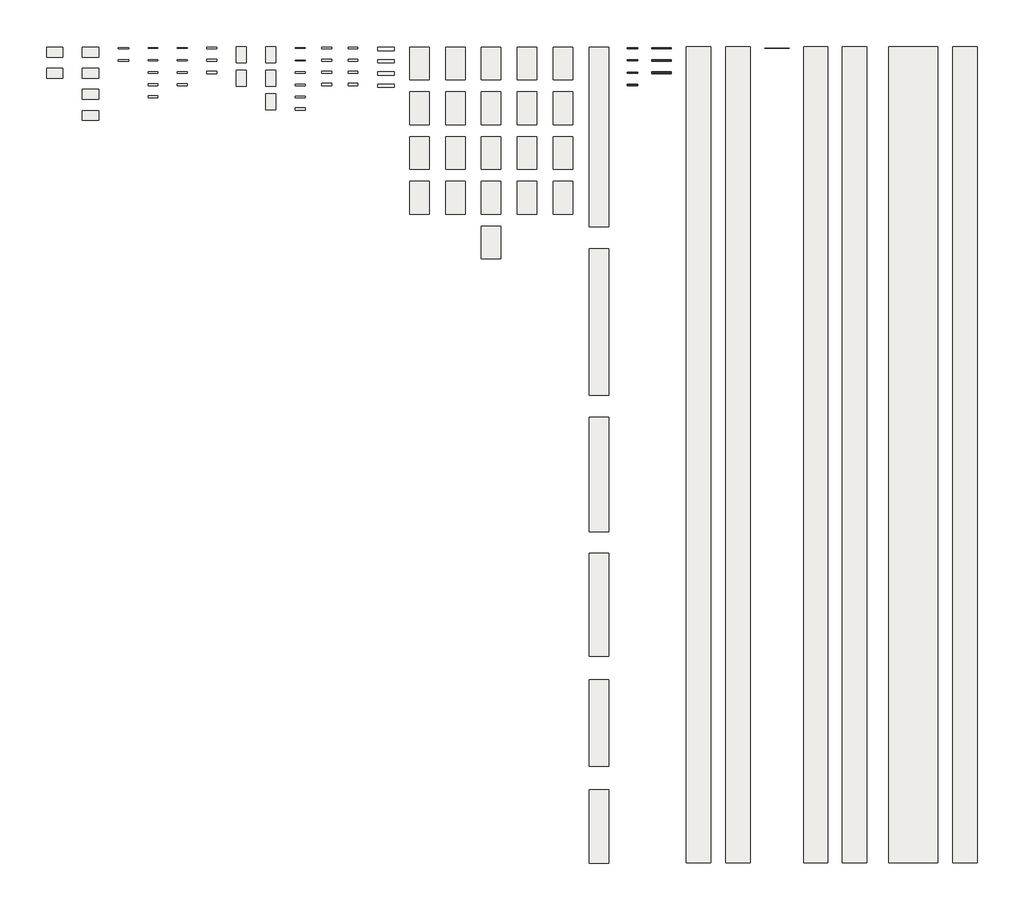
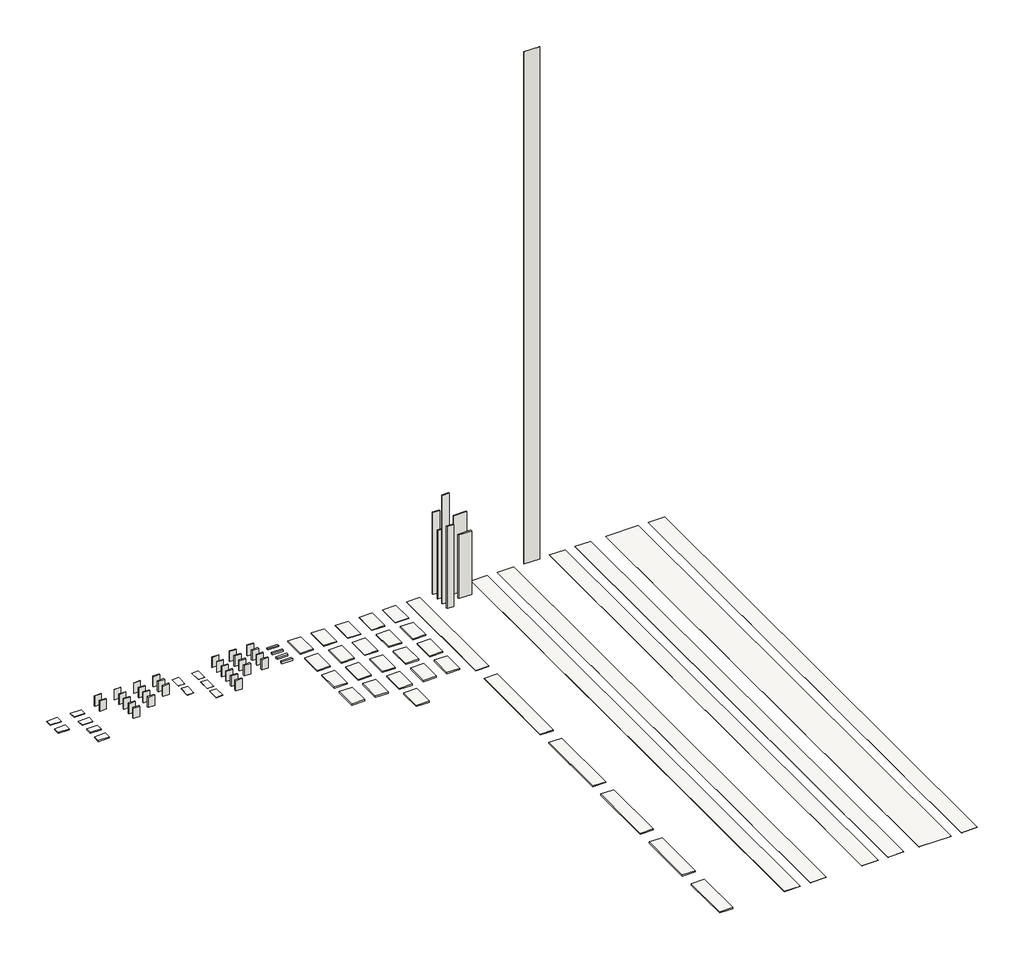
# One storey: 36 walls, 33 roofs, 10 coverings, 5 slabs.
"""IFC4 building model written with IfcOpenShell, lengths in millimetres."""

from ifc_helpers import new_model, si_unit, frame, origin, origin_with_axes, place, context, project, spatial, polyline, outline, extrude, element, save

model = new_model("IFC4")

# Units and contexts
model_context = context("Model", 3, world=origin())
ifc_project = project(units=[si_unit("LENGTHUNIT", "METRE", prefix="MILLI")], contexts=[model_context])

# Site, building, storey
site = spatial("IfcSite", under=ifc_project)
building = spatial("IfcBuilding", under=site)
storey = spatial("IfcBuildingStorey", under=building, Name="Референтни ниво", Elevation=0.0)

# Coverings
placement = place(None, origin())
element("IfcCovering", 1, ObjectType="Knauf Insulation - NaturBoard FIT - 50 mm - 50 x 1000 x 600 mm", at=placement, inside=storey, context=model_context, shape_type="SweptSolid", body=[
    extrude(outline(polyline([(-257652.0902031, 183264.3977243), (-257652.0902031, 182664.3977243), (-258652.0902031, 182664.3977243), (-258652.0902031, 183264.3977243), (-257652.0902031, 183264.3977243)])), origin_with_axes(), (0.0, 0.0, 1.0), 50.0),
])
element("IfcCovering", 2, ObjectType="Knauf Insulation - NaturBoard FIT - 100 mm - 100 x 1000 x 600 mm", at=placement, inside=storey, context=model_context, shape_type="SweptSolid", body=[
    extrude(outline(polyline([(-257652.0902031, 181984.3977243), (-257652.0902031, 181384.3977243), (-258652.0902031, 181384.3977243), (-258652.0902031, 181984.3977243), (-257652.0902031, 181984.3977243)])), origin_with_axes(), (0.0, 0.0, 1.0), 100.0),
])
element("IfcCovering", 3, ObjectType="Knauf Insulation - NaturBoard FIT PLUS - 50 mm - 50 x 1000 x 600 mm", at=placement, inside=storey, context=model_context, shape_type="SweptSolid", body=[
    extrude(outline(polyline([(-255452.0902031, 183264.3977243), (-255452.0902031, 182664.3977243), (-256452.0902031, 182664.3977243), (-256452.0902031, 183264.3977243), (-255452.0902031, 183264.3977243)])), origin_with_axes(), (0.0, 0.0, 1.0), 50.0),
])
element("IfcCovering", 4, ObjectType="Knauf Insulation - NaturBoard FIT PLUS - 60 mm - 60 x 1000 x 600 mm", at=placement, inside=storey, context=model_context, shape_type="SweptSolid", body=[
    extrude(outline(polyline([(-255452.0902031, 181984.3977243), (-255452.0902031, 181384.3977243), (-256452.0902031, 181384.3977243), (-256452.0902031, 181984.3977243), (-255452.0902031, 181984.3977243)])), origin_with_axes(), (0.0, 0.0, 1.0), 60.0),
])
element("IfcCovering", 5, ObjectType="Knauf Insulation - NaturBoard FIT PLUS - 100 mm - 100 x 1000 x 600 mm", at=placement, inside=storey, context=model_context, shape_type="SweptSolid", body=[
    extrude(outline(polyline([(-255452.0902031, 180684.3977243), (-255452.0902031, 180084.3977243), (-256452.0902031, 180084.3977243), (-256452.0902031, 180684.3977243), (-255452.0902031, 180684.3977243)])), origin_with_axes(), (0.0, 0.0, 1.0), 100.0),
])
element("IfcCovering", 6, ObjectType="Knauf Insulation - NaturBoard FIT PLUS - 120 mm - 120 x 1000 x 600 mm", at=placement, inside=storey, context=model_context, shape_type="SweptSolid", body=[
    extrude(outline(polyline([(-255452.0902031, 179384.3977243), (-255452.0902031, 178784.3977243), (-256452.0902031, 178784.3977243), (-256452.0902031, 179384.3977243), (-255452.0902031, 179384.3977243)])), origin_with_axes(), (0.0, 0.0, 1.0), 120.0),
])
element("IfcCovering", 7, ObjectType="Knauf Insulation - CLT C1 Thermal - 100 mm - 100 x 1000 x 200 mm", at=placement, inside=storey, context=model_context, shape_type="SweptSolid", body=[
    extrude(outline(polyline([(-237352.0902031, 183264.3977243), (-237352.0902031, 183064.3977243), (-238352.0902031, 183064.3977243), (-238352.0902031, 183264.3977243), (-237352.0902031, 183264.3977243)])), origin_with_axes(), (0.0, 0.0, 1.0), 100.0),
])
element("IfcCovering", 8, ObjectType="Knauf Insulation - CLT C1 Thermal - 120 mm - 120 x 1000 x 200 mm", at=placement, inside=storey, context=model_context, shape_type="SweptSolid", body=[
    extrude(outline(polyline([(-237352.0902031, 182511.8977243), (-237352.0902031, 182311.8977243), (-238352.0902031, 182311.8977243), (-238352.0902031, 182511.8977243), (-237352.0902031, 182511.8977243)])), origin_with_axes(), (0.0, 0.0, 1.0), 120.0),
])
element("IfcCovering", 9, ObjectType="Knauf Insulation - CLT C1 Thermal - 150 mm - 150 x 1000 x 200 mm", at=placement, inside=storey, context=model_context, shape_type="SweptSolid", body=[
    extrude(outline(polyline([(-237352.0902031, 181764.3977243), (-237352.0902031, 181564.3977243), (-238352.0902031, 181564.3977243), (-238352.0902031, 181764.3977243), (-237352.0902031, 181764.3977243)])), origin_with_axes(), (0.0, 0.0, 1.0), 150.0),
])
element("IfcCovering", 10, ObjectType="Knauf Insulation - CLT C1 Thermal - 200 mm - 200 x 1000 x 200 mm", at=placement, inside=storey, context=model_context, shape_type="SweptSolid", body=[
    extrude(outline(polyline([(-237352.0902031, 181016.8977243), (-237352.0902031, 180816.8977243), (-238352.0902031, 180816.8977243), (-238352.0902031, 181016.8977243), (-237352.0902031, 181016.8977243)])), origin_with_axes(), (0.0, 0.0, 1.0), 200.0),
])

# Roofs
element("IfcRoof", 11, ObjectType="Knauf Insulation - SmartRoof Base - 80 mm - 80 x 2000 x 1200 mm", at=placement, inside=storey, context=model_context, shape_type="SweptSolid", body=[
    extrude(outline(polyline([(-236400.0, 183272.205474), (-235200.0, 183272.205474), (-235200.0, 181272.205474), (-236400.0, 181272.205474), (-236400.0, 183272.205474)])), origin_with_axes(), (0.0, 0.0, 1.0), 80.0),
])
element("IfcRoof", 12, ObjectType="Knauf Insulation - SmartRoof Base - 100 mm - 100 x 2000 x 1200 mm", at=placement, inside=storey, context=model_context, shape_type="SweptSolid", body=[
    extrude(outline(polyline([(-236400.0, 180532.205474), (-235200.0, 180532.205474), (-235200.0, 178532.205474), (-236400.0, 178532.205474), (-236400.0, 180532.205474)])), origin_with_axes(), (0.0, 0.0, 1.0), 100.0),
])
element("IfcRoof", 13, ObjectType="Knauf Insulation - SmartRoof Base - 120 mm - 120 x 2000 x 1200 mm", at=placement, inside=storey, context=model_context, shape_type="SweptSolid", body=[
    extrude(outline(polyline([(-236400.0, 177792.205474), (-235200.0, 177792.205474), (-235200.0, 175792.205474), (-236400.0, 175792.205474), (-236400.0, 177792.205474)])), origin_with_axes(), (0.0, 0.0, 1.0), 120.0),
])
element("IfcRoof", 14, ObjectType="Knauf Insulation - SmartRoof Base - 140 mm - 140 x 2000 x 1200 mm", at=placement, inside=storey, context=model_context, shape_type="SweptSolid", body=[
    extrude(outline(polyline([(-236400.0, 175052.205474), (-235200.0, 175052.205474), (-235200.0, 173052.205474), (-236400.0, 173052.205474), (-236400.0, 175052.205474)])), origin_with_axes(), (0.0, 0.0, 1.0), 140.0),
])
element("IfcRoof", 15, ObjectType="Knauf Insulation - SmartRoof Base 2 - 80 mm - 80 x 2000 x 1200 mm", at=placement, inside=storey, context=model_context, shape_type="SweptSolid", body=[
    extrude(outline(polyline([(-234200.0, 183272.205474), (-233000.0, 183272.205474), (-233000.0, 181272.205474), (-234200.0, 181272.205474), (-234200.0, 183272.205474)])), origin_with_axes(), (0.0, 0.0, 1.0), 80.0),
])
element("IfcRoof", 16, ObjectType="Knauf Insulation - SmartRoof Base 2 - 100 mm - 100 x 2000 x 1200 mm", at=placement, inside=storey, context=model_context, shape_type="SweptSolid", body=[
    extrude(outline(polyline([(-234200.0, 180532.205474), (-233000.0, 180532.205474), (-233000.0, 178532.205474), (-234200.0, 178532.205474), (-234200.0, 180532.205474)])), origin_with_axes(), (0.0, 0.0, 1.0), 100.0),
])
element("IfcRoof", 17, ObjectType="Knauf Insulation - SmartRoof Base 2 - 120 mm - 120 x 2000 x 1200 mm", at=placement, inside=storey, context=model_context, shape_type="SweptSolid", body=[
    extrude(outline(polyline([(-234200.0, 177792.205474), (-233000.0, 177792.205474), (-233000.0, 175792.205474), (-234200.0, 175792.205474), (-234200.0, 177792.205474)])), origin_with_axes(), (0.0, 0.0, 1.0), 120.0),
])
element("IfcRoof", 18, ObjectType="Knauf Insulation - SmartRoof Base 2 - 140 mm - 140 x 2000 x 1200 mm", at=placement, inside=storey, context=model_context, shape_type="SweptSolid", body=[
    extrude(outline(polyline([(-234200.0, 175052.205474), (-233000.0, 175052.205474), (-233000.0, 173052.205474), (-234200.0, 173052.205474), (-234200.0, 175052.205474)])), origin_with_axes(), (0.0, 0.0, 1.0), 140.0),
])
element("IfcRoof", 19, ObjectType="Knauf Insulation - SmartRoof Thermal - 50 mm - 50 x 2000 x 1200 mm", at=placement, inside=storey, context=model_context, shape_type="SweptSolid", body=[
    extrude(outline(polyline([(-232000.0, 183272.205474), (-230800.0, 183272.205474), (-230800.0, 181272.205474), (-232000.0, 181272.205474), (-232000.0, 183272.205474)])), origin_with_axes(), (0.0, 0.0, 1.0), 50.0),
])
element("IfcRoof", 20, ObjectType="Knauf Insulation - SmartRoof Thermal - 80 mm - 80 x 2000 x 1200 mm", at=placement, inside=storey, context=model_context, shape_type="SweptSolid", body=[
    extrude(outline(polyline([(-232000.0, 180532.205474), (-230800.0, 180532.205474), (-230800.0, 178532.205474), (-232000.0, 178532.205474), (-232000.0, 180532.205474)])), origin_with_axes(), (0.0, 0.0, 1.0), 80.0),
])
element("IfcRoof", 21, ObjectType="Knauf Insulation - SmartRoof Thermal - 100 mm - 100 x 2000 x 1200 mm", at=placement, inside=storey, context=model_context, shape_type="SweptSolid", body=[
    extrude(outline(polyline([(-232000.0, 177792.205474), (-230800.0, 177792.205474), (-230800.0, 175792.205474), (-232000.0, 175792.205474), (-232000.0, 177792.205474)])), origin_with_axes(), (0.0, 0.0, 1.0), 100.0),
])
element("IfcRoof", 22, ObjectType="Knauf Insulation - SmartRoof Thermal - 120 mm - 120 x 2000 x 1200 mm", at=placement, inside=storey, context=model_context, shape_type="SweptSolid", body=[
    extrude(outline(polyline([(-232000.0, 175052.205474), (-230800.0, 175052.205474), (-230800.0, 173052.205474), (-232000.0, 173052.205474), (-232000.0, 175052.205474)])), origin_with_axes(), (0.0, 0.0, 1.0), 120.0),
])
element("IfcRoof", 23, ObjectType="Knauf Insulation - SmartRoof Thermal - 140 mm - 140 x 2000 x 1200 mm", at=placement, inside=storey, context=model_context, shape_type="SweptSolid", body=[
    extrude(outline(polyline([(-232000.0, 172312.205474), (-230800.0, 172312.205474), (-230800.0, 170312.205474), (-232000.0, 170312.205474), (-232000.0, 172312.205474)])), origin_with_axes(), (0.0, 0.0, 1.0), 140.0),
])
element("IfcRoof", 24, ObjectType="Knauf Insulation - SmartRoof Thermal 2 - 80 mm - 80 x 2000 x 1200 mm", at=placement, inside=storey, context=model_context, shape_type="SweptSolid", body=[
    extrude(outline(polyline([(-229800.0, 183272.205474), (-228600.0, 183272.205474), (-228600.0, 181272.205474), (-229800.0, 181272.205474), (-229800.0, 183272.205474)])), origin_with_axes(), (0.0, 0.0, 1.0), 80.0),
])
element("IfcRoof", 25, ObjectType="Knauf Insulation - SmartRoof Thermal 2 - 100 mm - 100 x 2000 x 1200 mm", at=placement, inside=storey, context=model_context, shape_type="SweptSolid", body=[
    extrude(outline(polyline([(-229800.0, 180532.205474), (-228600.0, 180532.205474), (-228600.0, 178532.205474), (-229800.0, 178532.205474), (-229800.0, 180532.205474)])), origin_with_axes(), (0.0, 0.0, 1.0), 100.0),
])
element("IfcRoof", 26, ObjectType="Knauf Insulation - SmartRoof Thermal 2 - 120 mm - 120 x 2000 x 1200 mm", at=placement, inside=storey, context=model_context, shape_type="SweptSolid", body=[
    extrude(outline(polyline([(-229800.0, 177792.205474), (-228600.0, 177792.205474), (-228600.0, 175792.205474), (-229800.0, 175792.205474), (-229800.0, 177792.205474)])), origin_with_axes(), (0.0, 0.0, 1.0), 120.0),
])
element("IfcRoof", 27, ObjectType="Knauf Insulation - SmartRoof Thermal 2 - 140 mm - 140 x 2000 x 1200 mm", at=placement, inside=storey, context=model_context, shape_type="SweptSolid", body=[
    extrude(outline(polyline([(-229800.0, 175052.205474), (-228600.0, 175052.205474), (-228600.0, 173052.205474), (-229800.0, 173052.205474), (-229800.0, 175052.205474)])), origin_with_axes(), (0.0, 0.0, 1.0), 140.0),
])
element("IfcRoof", 28, ObjectType="Knauf Insulation - SmartRoof Top - 50 mm - 50 x 2000 x 1200 mm", at=placement, inside=storey, context=model_context, shape_type="SweptSolid", body=[
    extrude(outline(polyline([(-227600.0, 183272.205474), (-226400.0, 183272.205474), (-226400.0, 181272.205474), (-227600.0, 181272.205474), (-227600.0, 183272.205474)])), origin_with_axes(), (0.0, 0.0, 1.0), 50.0),
])
element("IfcRoof", 29, ObjectType="Knauf Insulation - SmartRoof Top - 80 mm - 80 x 2000 x 1200 mm", at=placement, inside=storey, context=model_context, shape_type="SweptSolid", body=[
    extrude(outline(polyline([(-227600.0, 180532.205474), (-226400.0, 180532.205474), (-226400.0, 178532.205474), (-227600.0, 178532.205474), (-227600.0, 180532.205474)])), origin_with_axes(), (0.0, 0.0, 1.0), 80.0),
])
element("IfcRoof", 30, ObjectType="Knauf Insulation - SmartRoof Top - 100 mm - 100 x 2000 x 1200 mm", at=placement, inside=storey, context=model_context, shape_type="SweptSolid", body=[
    extrude(outline(polyline([(-227600.0, 177792.205474), (-226400.0, 177792.205474), (-226400.0, 175792.205474), (-227600.0, 175792.205474), (-227600.0, 177792.205474)])), origin_with_axes(), (0.0, 0.0, 1.0), 100.0),
])
element("IfcRoof", 31, ObjectType="Knauf Insulation - SmartRoof Top - 120 mm - 120 x 2000 x 1200 mm", at=placement, inside=storey, context=model_context, shape_type="SweptSolid", body=[
    extrude(outline(polyline([(-227600.0, 175052.205474), (-226400.0, 175052.205474), (-226400.0, 173052.205474), (-227600.0, 173052.205474), (-227600.0, 175052.205474)])), origin_with_axes(), (0.0, 0.0, 1.0), 120.0),
])
element("IfcRoof", 32, ObjectType="Knauf Insulation - Unifit 035 - 50 mm - 50 x 11000 x 1200 mm", at=placement, inside=storey, context=model_context, shape_type="SweptSolid", body=[
    extrude(outline(polyline([(-225400.0, 183272.205474), (-224200.0, 183272.205474), (-224200.0, 172272.205474), (-225400.0, 172272.205474), (-225400.0, 183272.205474)])), origin_with_axes(), (0.0, 0.0, 1.0), 50.0),
])
element("IfcRoof", 33, ObjectType="Knauf Insulation - Unifit 035 - 60 mm - 60 x 9000 x 1200 mm", at=placement, inside=storey, context=model_context, shape_type="SweptSolid", body=[
    extrude(outline(polyline([(-225400.0, 170932.205474), (-224200.0, 170932.205474), (-224200.0, 161932.205474), (-225400.0, 161932.205474), (-225400.0, 170932.205474)])), origin_with_axes(), (0.0, 0.0, 1.0), 60.0),
])
element("IfcRoof", 34, ObjectType="Knauf Insulation - Unifit 035 - 80 mm - 80 x 7000 x 1200 mm", at=placement, inside=storey, context=model_context, shape_type="SweptSolid", body=[
    extrude(outline(polyline([(-225400.0, 160592.205474), (-224200.0, 160592.205474), (-224200.0, 153592.205474), (-225400.0, 153592.205474), (-225400.0, 160592.205474)])), origin_with_axes(), (0.0, 0.0, 1.0), 80.0),
])
element("IfcRoof", 35, ObjectType="Knauf Insulation - Unifit 035 - 100 mm - 100 x 6300 x 1200 mm", at=placement, inside=storey, context=model_context, shape_type="SweptSolid", body=[
    extrude(outline(polyline([(-225400.0, 152252.205474), (-224200.0, 152252.205474), (-224200.0, 145952.205474), (-225400.0, 145952.205474), (-225400.0, 152252.205474)])), origin_with_axes(), (0.0, 0.0, 1.0), 100.0),
])
element("IfcRoof", 36, ObjectType="Knauf Insulation - Unifit 035 - 120 mm - 120 x 5300 x 1200 mm", at=placement, inside=storey, context=model_context, shape_type="SweptSolid", body=[
    extrude(outline(polyline([(-225400.0, 144512.205474), (-224200.0, 144512.205474), (-224200.0, 139212.205474), (-225400.0, 139212.205474), (-225400.0, 144512.205474)])), origin_with_axes(), (0.0, 0.0, 1.0), 120.0),
])
element("IfcRoof", 37, ObjectType="Knauf Insulation - Unifit 035 - 140 mm - 140 x 4500 x 1200 mm", at=placement, inside=storey, context=model_context, shape_type="SweptSolid", body=[
    extrude(outline(polyline([(-225400.0, 137772.205474), (-224200.0, 137772.205474), (-224200.0, 133272.205474), (-225400.0, 133272.205474), (-225400.0, 137772.205474)])), origin_with_axes(), (0.0, 0.0, 1.0), 140.0),
])
element("IfcRoof", 38, ObjectType="Knauf Insulation - Homeseal LDS 0.02 - 1500 x 50000 mm", at=placement, inside=storey, context=model_context, shape_type="SweptSolid", body=[
    extrude(outline(polyline([(-219445.8819036, 183288.5903824), (-217945.8819036, 183288.5903824), (-217945.8819036, 133288.5903824), (-219445.8819036, 133288.5903824), (-219445.8819036, 183288.5903824)])), origin_with_axes(), (0.0, 0.0, 1.0), 1.6),
])
element("IfcRoof", 39, ObjectType="Knauf Insulation - Homeseal LDS 0.04 FixPlus - 1500 x 50000 mm", at=placement, inside=storey, context=model_context, shape_type="SweptSolid", body=[
    extrude(outline(polyline([(-217032.7802422, 183288.5903824), (-215532.7802422, 183288.5903824), (-215532.7802422, 133288.5903824), (-217032.7802422, 133288.5903824), (-217032.7802422, 183288.5903824)])), origin_with_axes(), (0.0, 0.0, 1.0), 1.6),
])
element("IfcRoof", 40, ObjectType="Knauf Insulation - Homeseal LDS 5 - 1500 x 50000 mm", at=placement, inside=storey, context=model_context, shape_type="SweptSolid", body=[
    extrude(outline(polyline([(-212258.9835651, 183288.5903824), (-210758.9835651, 183288.5903824), (-210758.9835651, 133288.5903824), (-212258.9835651, 133288.5903824), (-212258.9835651, 183288.5903824)])), origin_with_axes(), (0.0, 0.0, 1.0), 1.6),
])
element("IfcRoof", 41, ObjectType="Knauf Insulation - Homeseal LDS 35 - 1500 x 50000 mm", at=placement, inside=storey, context=model_context, shape_type="SweptSolid", body=[
    extrude(outline(polyline([(-209898.9835651, 183288.5903824), (-208398.9835651, 183288.5903824), (-208398.9835651, 133288.5903824), (-209898.9835651, 133288.5903824), (-209898.9835651, 183288.5903824)])), origin_with_axes(), (0.0, 0.0, 1.0), 1.6),
])
element("IfcRoof", 42, ObjectType="Knauf Insulation - Homeseal LDS 35 FixPlus - 3000 x 50000 mm", at=placement, inside=storey, context=model_context, shape_type="SweptSolid", body=[
    extrude(outline(polyline([(-207025.2137836, 183298.442744), (-204025.2137836, 183298.442744), (-204025.2137836, 133298.442744), (-207025.2137836, 133298.442744), (-207025.2137836, 183298.442744)])), origin_with_axes(), (0.0, 0.0, 1.0), 1.6),
])
element("IfcRoof", 43, ObjectType="Knauf Insulation - Homeseal LDS 200 AluPlus - 1500 x 50000 mm", at=placement, inside=storey, context=model_context, shape_type="SweptSolid", body=[
    extrude(outline(polyline([(-203098.9835651, 183288.5903824), (-201598.9835651, 183288.5903824), (-201598.9835651, 133288.5903824), (-203098.9835651, 133288.5903824), (-203098.9835651, 183288.5903824)])), origin_with_axes(), (0.0, 0.0, 1.0), 1.6),
])

# Slabs
element("IfcSlab", 44, ObjectType="Knauf Insulation - NaturBoard POD STANDARD - 20 mm - 20 x 1000 x 600 mm", at=placement, inside=storey, context=model_context, shape_type="SweptSolid", body=[
    extrude(outline(polyline([(-246426.4890323, 183315.8878718), (-246426.4890323, 182315.8878718), (-247026.4890323, 182315.8878718), (-247026.4890323, 183315.8878718), (-246426.4890323, 183315.8878718)])), frame((0.0, 0.0, -20.0), z_axis=(0.0, 0.0, 1.0), x_axis=(1.0, 0.0, 0.0)), (0.0, 0.0, 1.0), 20.0),
])
element("IfcSlab", 45, ObjectType="Knauf Insulation - NaturBoard POD STANDARD - 30 mm - 30 x 1000 x 600 mm", at=placement, inside=storey, context=model_context, shape_type="SweptSolid", body=[
    extrude(outline(polyline([(-246426.4890323, 181875.8878718), (-246426.4890323, 180875.8878718), (-247026.4890323, 180875.8878718), (-247026.4890323, 181875.8878718), (-246426.4890323, 181875.8878718)])), frame((0.0, 0.0, -30.0), z_axis=(0.0, 0.0, 1.0), x_axis=(1.0, 0.0, 0.0)), (0.0, 0.0, 1.0), 30.0),
])
element("IfcSlab", 46, ObjectType="Knauf Insulation - NaturBoard POD EXTRA - 20 mm - 20 x 1000 x 600 mm", at=placement, inside=storey, context=model_context, shape_type="SweptSolid", body=[
    extrude(outline(polyline([(-244606.4890323, 183315.8878718), (-244606.4890323, 182315.8878718), (-245206.4890323, 182315.8878718), (-245206.4890323, 183315.8878718), (-244606.4890323, 183315.8878718)])), frame((0.0, 0.0, -20.0), z_axis=(0.0, 0.0, 1.0), x_axis=(1.0, 0.0, 0.0)), (0.0, 0.0, 1.0), 20.0),
])
element("IfcSlab", 47, ObjectType="Knauf Insulation - NaturBoard POD EXTRA - 30 mm - 30 x 1000 x 600 mm", at=placement, inside=storey, context=model_context, shape_type="SweptSolid", body=[
    extrude(outline(polyline([(-244606.4890323, 181875.8878718), (-244606.4890323, 180875.8878718), (-245206.4890323, 180875.8878718), (-245206.4890323, 181875.8878718), (-244606.4890323, 181875.8878718)])), frame((0.0, 0.0, -30.0), z_axis=(0.0, 0.0, 1.0), x_axis=(1.0, 0.0, 0.0)), (0.0, 0.0, 1.0), 30.0),
])
element("IfcSlab", 48, ObjectType="Knauf Insulation - NaturBoard POD EXTRA - 50 mm - 50 x 1000 x 600 mm", at=placement, inside=storey, context=model_context, shape_type="SweptSolid", body=[
    extrude(outline(polyline([(-244606.4890323, 180435.8878718), (-244606.4890323, 179435.8878718), (-245206.4890323, 179435.8878718), (-245206.4890323, 180435.8878718), (-244606.4890323, 180435.8878718)])), frame((0.0, 0.0, -50.0), z_axis=(0.0, 0.0, 1.0), x_axis=(1.0, 0.0, 0.0)), (0.0, 0.0, 1.0), 50.0),
])

# Walls
element("IfcWall", 49, ObjectType="Knauf Insulation - NaturBoard FIT-G PLUS - 50 mm - 50 x 1000 x 625 mm", at=placement, inside=storey, context=model_context, shape_type="SweptSolid", body=[
    extrude(outline(polyline([(-253623.2417825, 183192.205474), (-254248.2417825, 183192.205474), (-254248.2417825, 183242.205474), (-253623.2417825, 183242.205474), (-253623.2417825, 183192.205474)])), origin_with_axes(), (0.0, 0.0, 1.0), 1000.0),
])
element("IfcWall", 50, ObjectType="Knauf Insulation - NaturBoard FIT-G PLUS - 75 mm - 75 x 1000 x 625 mm", at=placement, inside=storey, context=model_context, shape_type="SweptSolid", body=[
    extrude(outline(polyline([(-253623.2417825, 182419.705474), (-254248.2417825, 182419.705474), (-254248.2417825, 182494.705474), (-253623.2417825, 182494.705474), (-253623.2417825, 182419.705474)])), origin_with_axes(), (0.0, 0.0, 1.0), 1000.0),
])
element("IfcWall", 51, ObjectType="Knauf Insulation - NaturBoard VENTI - 30 mm - 30 x 1000 x 600 mm", at=placement, inside=storey, context=model_context, shape_type="SweptSolid", body=[
    extrude(outline(polyline([(-251825.7417825, 183202.205474), (-252425.7417825, 183202.205474), (-252425.7417825, 183232.205474), (-251825.7417825, 183232.205474), (-251825.7417825, 183202.205474)])), origin_with_axes(), (0.0, 0.0, 1.0), 1000.0),
])
element("IfcWall", 52, ObjectType="Knauf Insulation - NaturBoard VENTI - 50 mm - 50 x 1000 x 600 mm", at=placement, inside=storey, context=model_context, shape_type="SweptSolid", body=[
    extrude(outline(polyline([(-251825.7417825, 182444.705474), (-252425.7417825, 182444.705474), (-252425.7417825, 182494.705474), (-251825.7417825, 182494.705474), (-251825.7417825, 182444.705474)])), origin_with_axes(), (0.0, 0.0, 1.0), 1000.0),
])
element("IfcWall", 53, ObjectType="Knauf Insulation - NaturBoard VENTI - 80 mm - 80 x 1000 x 600 mm", at=placement, inside=storey, context=model_context, shape_type="SweptSolid", body=[
    extrude(outline(polyline([(-251825.7417825, 181682.205474), (-252425.7417825, 181682.205474), (-252425.7417825, 181762.205474), (-251825.7417825, 181762.205474), (-251825.7417825, 181682.205474)])), origin_with_axes(), (0.0, 0.0, 1.0), 1000.0),
])
element("IfcWall", 54, ObjectType="Knauf Insulation - NaturBoard VENTI - 100 mm - 100 x 1000 x 600 mm", at=placement, inside=storey, context=model_context, shape_type="SweptSolid", body=[
    extrude(outline(polyline([(-251825.7417825, 180924.705474), (-252425.7417825, 180924.705474), (-252425.7417825, 181024.705474), (-251825.7417825, 181024.705474), (-251825.7417825, 180924.705474)])), origin_with_axes(), (0.0, 0.0, 1.0), 1000.0),
])
element("IfcWall", 55, ObjectType="Knauf Insulation - NaturBoard VENTI - 120 mm - 120 x 1000 x 600 mm", at=placement, inside=storey, context=model_context, shape_type="SweptSolid", body=[
    extrude(outline(polyline([(-251825.7417825, 180167.205474), (-252425.7417825, 180167.205474), (-252425.7417825, 180287.205474), (-251825.7417825, 180287.205474), (-251825.7417825, 180167.205474)])), origin_with_axes(), (0.0, 0.0, 1.0), 1000.0),
])
element("IfcWall", 56, ObjectType="Knauf Insulation - NaturBoard VENTACUSTO - 50 mm - 50 x 1000 x 600 mm", at=placement, inside=storey, context=model_context, shape_type="SweptSolid", body=[
    extrude(outline(polyline([(-250028.2417825, 183204.705474), (-250628.2417825, 183204.705474), (-250628.2417825, 183254.705474), (-250028.2417825, 183254.705474), (-250028.2417825, 183204.705474)])), origin_with_axes(), (0.0, 0.0, 1.0), 1000.0),
])
element("IfcWall", 57, ObjectType="Knauf Insulation - NaturBoard VENTACUSTO - 80 mm - 80 x 1000 x 600 mm", at=placement, inside=storey, context=model_context, shape_type="SweptSolid", body=[
    extrude(outline(polyline([(-250028.2417825, 182437.205474), (-250628.2417825, 182437.205474), (-250628.2417825, 182517.205474), (-250028.2417825, 182517.205474), (-250028.2417825, 182437.205474)])), origin_with_axes(), (0.0, 0.0, 1.0), 1000.0),
])
element("IfcWall", 58, ObjectType="Knauf Insulation - NaturBoard VENTACUSTO - 100 mm - 100 x 1000 x 600 mm", at=placement, inside=storey, context=model_context, shape_type="SweptSolid", body=[
    extrude(outline(polyline([(-250028.2417825, 181679.705474), (-250628.2417825, 181679.705474), (-250628.2417825, 181779.705474), (-250028.2417825, 181779.705474), (-250028.2417825, 181679.705474)])), origin_with_axes(), (0.0, 0.0, 1.0), 1000.0),
])
element("IfcWall", 59, ObjectType="Knauf Insulation - NaturBoard VENTACUSTO - 120 mm - 120 x 1000 x 600 mm", at=placement, inside=storey, context=model_context, shape_type="SweptSolid", body=[
    extrude(outline(polyline([(-250028.2417825, 180922.205474), (-250628.2417825, 180922.205474), (-250628.2417825, 181042.205474), (-250028.2417825, 181042.205474), (-250028.2417825, 180922.205474)])), origin_with_axes(), (0.0, 0.0, 1.0), 1000.0),
])
element("IfcWall", 60, ObjectType="Knauf Insulation - NaturBoard VENTI PLUS - 100 mm - 100 x 1000 x 600 mm", at=placement, inside=storey, context=model_context, shape_type="SweptSolid", body=[
    extrude(outline(polyline([(-248230.7417825, 183187.205474), (-248830.7417825, 183187.205474), (-248830.7417825, 183287.205474), (-248230.7417825, 183287.205474), (-248230.7417825, 183187.205474)])), origin_with_axes(), (0.0, 0.0, 1.0), 1000.0),
])
element("IfcWall", 61, ObjectType="Knauf Insulation - NaturBoard VENTI PLUS - 120 mm - 120 x 1000 x 600 mm", at=placement, inside=storey, context=model_context, shape_type="SweptSolid", body=[
    extrude(outline(polyline([(-248230.7417825, 182424.705474), (-248830.7417825, 182424.705474), (-248830.7417825, 182544.705474), (-248230.7417825, 182544.705474), (-248230.7417825, 182424.705474)])), origin_with_axes(), (0.0, 0.0, 1.0), 1000.0),
])
element("IfcWall", 62, ObjectType="Knauf Insulation - NaturBoard VENTI PLUS - 150 mm - 150 x 1000 x 600 mm", at=placement, inside=storey, context=model_context, shape_type="SweptSolid", body=[
    extrude(outline(polyline([(-248230.7417825, 181662.205474), (-248830.7417825, 181662.205474), (-248830.7417825, 181812.205474), (-248230.7417825, 181812.205474), (-248230.7417825, 181662.205474)])), origin_with_axes(), (0.0, 0.0, 1.0), 1000.0),
])
element("IfcWall", 63, ObjectType="Knauf Insulation - FKD-S Thermal - 30 mm - 30 x 1000 x 600 mm", at=placement, inside=storey, context=model_context, shape_type="SweptSolid", body=[
    extrude(outline(polyline([(-242808.9890323, 183202.205474), (-243408.9890323, 183202.205474), (-243408.9890323, 183232.205474), (-242808.9890323, 183232.205474), (-242808.9890323, 183202.205474)])), origin_with_axes(), (0.0, 0.0, 1.0), 1000.0),
])
element("IfcWall", 64, ObjectType="Knauf Insulation - FKD-S Thermal - 50 mm - 50 x 1000 x 600 mm", at=placement, inside=storey, context=model_context, shape_type="SweptSolid", body=[
    extrude(outline(polyline([(-242808.9890323, 182439.705474), (-243408.9890323, 182439.705474), (-243408.9890323, 182489.705474), (-242808.9890323, 182489.705474), (-242808.9890323, 182439.705474)])), origin_with_axes(), (0.0, 0.0, 1.0), 1000.0),
])
element("IfcWall", 65, ObjectType="Knauf Insulation - FKD-S Thermal - 80 mm - 80 x 1000 x 600 mm", at=placement, inside=storey, context=model_context, shape_type="SweptSolid", body=[
    extrude(outline(polyline([(-242808.9890323, 181677.205474), (-243408.9890323, 181677.205474), (-243408.9890323, 181757.205474), (-242808.9890323, 181757.205474), (-242808.9890323, 181677.205474)])), origin_with_axes(), (0.0, 0.0, 1.0), 1000.0),
])
element("IfcWall", 66, ObjectType="Knauf Insulation - FKD-S Thermal - 100 mm - 100 x 1000 x 600 mm", at=placement, inside=storey, context=model_context, shape_type="SweptSolid", body=[
    extrude(outline(polyline([(-242808.9890323, 180919.705474), (-243408.9890323, 180919.705474), (-243408.9890323, 181019.705474), (-242808.9890323, 181019.705474), (-242808.9890323, 180919.705474)])), origin_with_axes(), (0.0, 0.0, 1.0), 1000.0),
])
element("IfcWall", 67, ObjectType="Knauf Insulation - FKD-S Thermal - 120 mm - 120 x 1000 x 600 mm", at=placement, inside=storey, context=model_context, shape_type="SweptSolid", body=[
    extrude(outline(polyline([(-242808.9890323, 180162.205474), (-243408.9890323, 180162.205474), (-243408.9890323, 180282.205474), (-242808.9890323, 180282.205474), (-242808.9890323, 180162.205474)])), origin_with_axes(), (0.0, 0.0, 1.0), 1000.0),
])
element("IfcWall", 68, ObjectType="Knauf Insulation - FKD-S Thermal - 150 mm - 150 x 1000 x 600 mm", at=placement, inside=storey, context=model_context, shape_type="SweptSolid", body=[
    extrude(outline(polyline([(-242808.9890323, 179399.705474), (-243408.9890323, 179399.705474), (-243408.9890323, 179549.705474), (-242808.9890323, 179549.705474), (-242808.9890323, 179399.705474)])), origin_with_axes(), (0.0, 0.0, 1.0), 1000.0),
])
element("IfcWall", 69, ObjectType="Knauf Insulation - FKD-N Thermal - 80 mm - 80 x 1000 x 600 mm", at=placement, inside=storey, context=model_context, shape_type="SweptSolid", body=[
    extrude(outline(polyline([(-241184.3504366, 183192.205474), (-241784.3504366, 183192.205474), (-241784.3504366, 183272.205474), (-241184.3504366, 183272.205474), (-241184.3504366, 183192.205474)])), origin_with_axes(), (0.0, 0.0, 1.0), 1000.0),
])
element("IfcWall", 70, ObjectType="Knauf Insulation - FKD-N Thermal - 100 mm - 100 x 1000 x 600 mm", at=placement, inside=storey, context=model_context, shape_type="SweptSolid", body=[
    extrude(outline(polyline([(-241184.3504366, 182429.705474), (-241784.3504366, 182429.705474), (-241784.3504366, 182529.705474), (-241184.3504366, 182529.705474), (-241184.3504366, 182429.705474)])), origin_with_axes(), (0.0, 0.0, 1.0), 1000.0),
])
element("IfcWall", 71, ObjectType="Knauf Insulation - FKD-N Thermal - 120 mm - 120 x 1000 x 600 mm", at=placement, inside=storey, context=model_context, shape_type="SweptSolid", body=[
    extrude(outline(polyline([(-241184.3504366, 181672.205474), (-241784.3504366, 181672.205474), (-241784.3504366, 181792.205474), (-241184.3504366, 181792.205474), (-241184.3504366, 181672.205474)])), origin_with_axes(), (0.0, 0.0, 1.0), 1000.0),
])
element("IfcWall", 72, ObjectType="Knauf Insulation - FKD-N Thermal - 150 mm - 150 x 1000 x 600 mm", at=placement, inside=storey, context=model_context, shape_type="SweptSolid", body=[
    extrude(outline(polyline([(-241184.3504366, 180909.705474), (-241784.3504366, 180909.705474), (-241784.3504366, 181059.705474), (-241184.3504366, 181059.705474), (-241184.3504366, 180909.705474)])), origin_with_axes(), (0.0, 0.0, 1.0), 1000.0),
])
element("IfcWall", 73, ObjectType="Knauf Insulation - FKD-N Thermal 2 - 80 mm - 80 x 1000 x 600 mm", at=placement, inside=storey, context=model_context, shape_type="SweptSolid", body=[
    extrude(outline(polyline([(-239564.3504366, 183192.205474), (-240164.3504366, 183192.205474), (-240164.3504366, 183272.205474), (-239564.3504366, 183272.205474), (-239564.3504366, 183192.205474)])), origin_with_axes(), (0.0, 0.0, 1.0), 1000.0),
])
element("IfcWall", 74, ObjectType="Knauf Insulation - FKD-N Thermal 2 - 100 mm - 100 x 1000 x 600 mm", at=placement, inside=storey, context=model_context, shape_type="SweptSolid", body=[
    extrude(outline(polyline([(-239564.3504366, 182429.705474), (-240164.3504366, 182429.705474), (-240164.3504366, 182529.705474), (-239564.3504366, 182529.705474), (-239564.3504366, 182429.705474)])), origin_with_axes(), (0.0, 0.0, 1.0), 1000.0),
])
element("IfcWall", 75, ObjectType="Knauf Insulation - FKD-N Thermal 2 - 120 mm - 120 x 1000 x 600 mm", at=placement, inside=storey, context=model_context, shape_type="SweptSolid", body=[
    extrude(outline(polyline([(-239564.3504366, 181672.205474), (-240164.3504366, 181672.205474), (-240164.3504366, 181792.205474), (-239564.3504366, 181792.205474), (-239564.3504366, 181672.205474)])), origin_with_axes(), (0.0, 0.0, 1.0), 1000.0),
])
element("IfcWall", 76, ObjectType="Knauf Insulation - FKD-N Thermal 2 - 150 mm - 150 x 1000 x 600 mm", at=placement, inside=storey, context=model_context, shape_type="SweptSolid", body=[
    extrude(outline(polyline([(-239564.3504366, 180909.705474), (-240164.3504366, 180909.705474), (-240164.3504366, 181059.705474), (-239564.3504366, 181059.705474), (-239564.3504366, 180909.705474)])), origin_with_axes(), (0.0, 0.0, 1.0), 1000.0),
])
element("IfcWall", 77, ObjectType="Knauf Insulation - Decibel - 50 mm -50 x 8000 x 625 mm", at=placement, inside=storey, context=model_context, shape_type="SweptSolid", body=[
    extrude(outline(polyline([(-222423.2417825, 183192.205474), (-223048.2417825, 183192.205474), (-223048.2417825, 183242.205474), (-222423.2417825, 183242.205474), (-222423.2417825, 183192.205474)])), origin_with_axes(), (0.0, 0.0, 1.0), 8000.0),
])
element("IfcWall", 78, ObjectType="Knauf Insulation - Decibel - 60 mm - 60 x 6700 x 625 mm", at=placement, inside=storey, context=model_context, shape_type="SweptSolid", body=[
    extrude(outline(polyline([(-222423.2417825, 182434.705474), (-223048.2417825, 182434.705474), (-223048.2417825, 182494.705474), (-222423.2417825, 182494.705474), (-222423.2417825, 182434.705474)])), origin_with_axes(), (0.0, 0.0, 1.0), 6700.0),
])
element("IfcWall", 79, ObjectType="Knauf Insulation - Decibel - 75 mm - 75 x 10600 x 625 mm", at=placement, inside=storey, context=model_context, shape_type="SweptSolid", body=[
    extrude(outline(polyline([(-222423.2417825, 181674.705474), (-223048.2417825, 181674.705474), (-223048.2417825, 181749.705474), (-222423.2417825, 181749.705474), (-222423.2417825, 181674.705474)])), origin_with_axes(), (0.0, 0.0, 1.0), 10600.0),
])
element("IfcWall", 80, ObjectType="Knauf Insulation - Decibel - 100 mm - 100 x 8000 x 625 mm", at=placement, inside=storey, context=model_context, shape_type="SweptSolid", body=[
    extrude(outline(polyline([(-222423.2417825, 180909.705474), (-223048.2417825, 180909.705474), (-223048.2417825, 181009.705474), (-222423.2417825, 181009.705474), (-222423.2417825, 180909.705474)])), origin_with_axes(), (0.0, 0.0, 1.0), 8000.0),
])
element("IfcWall", 81, ObjectType="Knauf Insulation - NatuRoll Pro - 50 mm -50 x 6200 x 1200 mm", at=placement, inside=storey, context=model_context, shape_type="SweptSolid", body=[
    extrude(outline(polyline([(-220358.9835651, 183192.205474), (-221558.9835651, 183192.205474), (-221558.9835651, 183242.205474), (-220358.9835651, 183242.205474), (-220358.9835651, 183192.205474)])), origin_with_axes(), (0.0, 0.0, 1.0), 6200.0),
])
element("IfcWall", 82, ObjectType="Knauf Insulation - NatuRoll Pro - 80 mm - 80 x 7600 x 1200 mm", at=placement, inside=storey, context=model_context, shape_type="SweptSolid", body=[
    extrude(outline(polyline([(-220358.9835651, 182424.705474), (-221558.9835651, 182424.705474), (-221558.9835651, 182504.705474), (-220358.9835651, 182504.705474), (-220358.9835651, 182424.705474)])), origin_with_axes(), (0.0, 0.0, 1.0), 7600.0),
])
element("IfcWall", 83, ObjectType="Knauf Insulation - NatuRoll Pro - 100 mm - 100 x 6200 x 1200 mm", at=placement, inside=storey, context=model_context, shape_type="SweptSolid", body=[
    extrude(outline(polyline([(-220358.9835651, 181662.205474), (-221558.9835651, 181662.205474), (-221558.9835651, 181762.205474), (-220358.9835651, 181762.205474), (-220358.9835651, 181662.205474)])), origin_with_axes(), (0.0, 0.0, 1.0), 6200.0),
])
element("IfcWall", 84, ObjectType="Knauf Insulation - Homeseal LDS 0.02 UV FixPlus - 1500 x 50000 mm", at=placement, inside=storey, context=model_context, shape_type="SweptSolid", body=[
    extrude(outline(polyline([(-213145.8819036, 183222.0067861), (-214645.8819036, 183222.0067861), (-214645.8819036, 183223.6067861), (-213145.8819036, 183223.6067861), (-213145.8819036, 183222.0067861)])), origin_with_axes(), (0.0, 0.0, 1.0), 50000.0),
])

save(model, "model.ifc")
